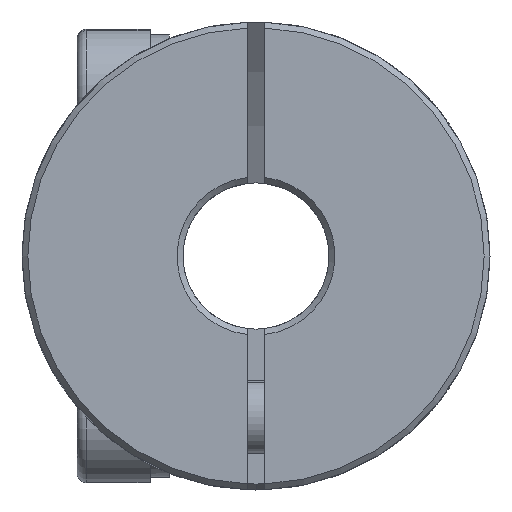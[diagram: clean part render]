
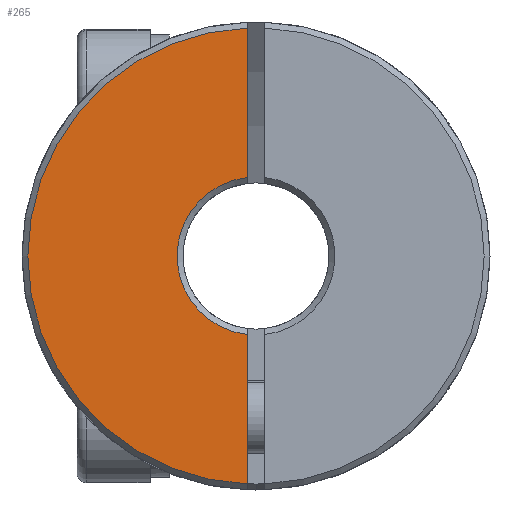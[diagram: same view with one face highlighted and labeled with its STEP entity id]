
A CAD part, front view. The second image highlights one B-rep face of the part: STEP entity #265.
In plain terms, the highlighted planar face has unit normal (0, -1, 0).
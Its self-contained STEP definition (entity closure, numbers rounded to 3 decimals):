
#50 = CARTESIAN_POINT ( 'NONE',  ( 0., -15.02, 0. ) ) ;
#117 = DIRECTION ( 'NONE',  ( 0., 0., 1. ) ) ;
#200 = AXIS2_PLACEMENT_3D ( 'NONE', #7364, #3784, #4395 ) ;
#206 = PLANE ( 'NONE',  #200 ) ;
#217 = ORIENTED_EDGE ( 'NONE', *, *, #5605, .T. ) ;
#265 = ADVANCED_FACE ( 'NONE', ( #3978 ), #206, .F. ) ;
#384 = LINE ( 'NONE', #1436, #7513 ) ;
#633 = DIRECTION ( 'NONE',  ( 0., 1., 0. ) ) ;
#1040 = EDGE_LOOP ( 'NONE', ( #3877, #217, #2560, #2778 ) ) ;
#1062 = AXIS2_PLACEMENT_3D ( 'NONE', #1214, #3576, #117 ) ;
#1214 = CARTESIAN_POINT ( 'NONE',  ( 0., -15.02, 0. ) ) ;
#1436 = CARTESIAN_POINT ( 'NONE',  ( -0.3, -15.02, 0. ) ) ;
#1475 = CARTESIAN_POINT ( 'NONE',  ( -0.3, -15.02, 2.683 ) ) ;
#1752 = VERTEX_POINT ( 'NONE', #1475 ) ;
#2047 = DIRECTION ( 'NONE',  ( 0., 0., -1. ) ) ;
#2469 = DIRECTION ( 'NONE',  ( 0., 0., 1. ) ) ;
#2560 = ORIENTED_EDGE ( 'NONE', *, *, #6318, .F. ) ;
#2778 = ORIENTED_EDGE ( 'NONE', *, *, #6540, .T. ) ;
#3100 = VERTEX_POINT ( 'NONE', #3730 ) ;
#3132 = CIRCLE ( 'NONE', #6718, 2.7 ) ;
#3576 = DIRECTION ( 'NONE',  ( 0., -1., 0. ) ) ;
#3699 = EDGE_CURVE ( 'NONE', #7524, #1752, #384, .T. ) ;
#3730 = CARTESIAN_POINT ( 'NONE',  ( -0.3, -15.02, -2.683 ) ) ;
#3784 = DIRECTION ( 'NONE',  ( 0., 1., 0. ) ) ;
#3877 = ORIENTED_EDGE ( 'NONE', *, *, #3699, .F. ) ;
#3978 = FACE_OUTER_BOUND ( 'NONE', #1040, .T. ) ;
#4395 = DIRECTION ( 'NONE',  ( 0., 0., 1. ) ) ;
#4590 = LINE ( 'NONE', #6963, #4677 ) ;
#4677 = VECTOR ( 'NONE', #7472, 1000. ) ;
#5605 = EDGE_CURVE ( 'NONE', #7524, #7165, #6737, .T. ) ;
#6318 = EDGE_CURVE ( 'NONE', #3100, #7165, #4590, .T. ) ;
#6362 = CARTESIAN_POINT ( 'NONE',  ( -0.3, -15.02, 7.794 ) ) ;
#6540 = EDGE_CURVE ( 'NONE', #3100, #1752, #3132, .T. ) ;
#6718 = AXIS2_PLACEMENT_3D ( 'NONE', #50, #633, #2469 ) ;
#6737 = CIRCLE ( 'NONE', #1062, 7.8 ) ;
#6963 = CARTESIAN_POINT ( 'NONE',  ( -0.3, -15.02, 0. ) ) ;
#7165 = VERTEX_POINT ( 'NONE', #7570 ) ;
#7364 = CARTESIAN_POINT ( 'NONE',  ( 0., -15.02, 0. ) ) ;
#7472 = DIRECTION ( 'NONE',  ( 0., 0., -1. ) ) ;
#7513 = VECTOR ( 'NONE', #2047, 1000. ) ;
#7524 = VERTEX_POINT ( 'NONE', #6362 ) ;
#7570 = CARTESIAN_POINT ( 'NONE',  ( -0.3, -15.02, -7.794 ) ) ;
